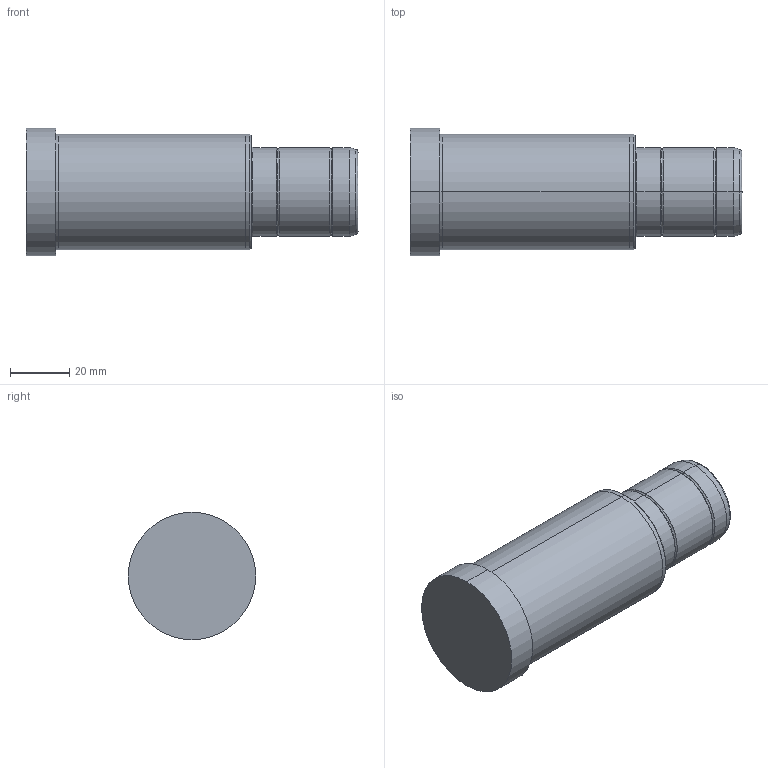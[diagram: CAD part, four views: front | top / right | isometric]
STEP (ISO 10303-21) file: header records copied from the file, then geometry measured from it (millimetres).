
FILE_DESCRIPTION( ( 'STEP AP203' ), '1' );
FILE_NAME( 'C:/Projects/D02 - 30x76x36.step', '2002-12-31T22:46:00', ( ' ' ), ( ' ' ), 'XStep 1.0', ' ', ' ' );
FILE_SCHEMA( ( 'CONFIG_CONTROL_DESIGN' ) );
Length unit declared in the file: metre
Products named in the file (1): 1
Bounding box: 112 x 43 x 43 mm (x, y, z)
Volume: 118684.4 mm3; surface area: 15694 mm2
Topology: 1 solids, 1 shells, 36 faces, 70 edges, 40 vertices
Faces by surface type: bspline 18, revolution 18
Entity records: 1127 total; most frequent: CARTESIAN_POINT 417, ORIENTED_EDGE 140, DIRECTION 118, EDGE_CURVE 70, AXIS2_PLACEMENT_3D 41, EDGE_LOOP 40, VERTEX_POINT 40, CIRCLE 40
